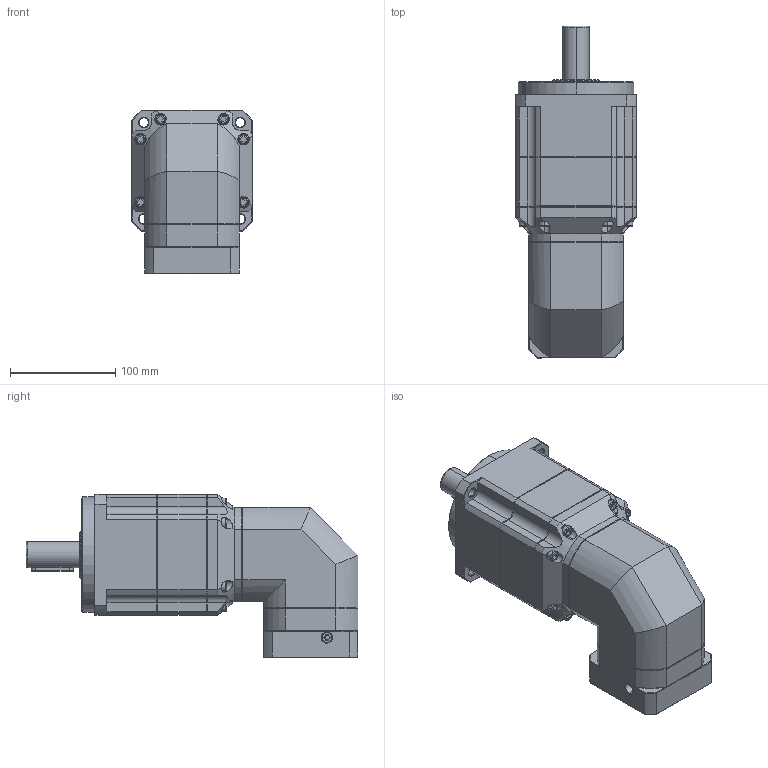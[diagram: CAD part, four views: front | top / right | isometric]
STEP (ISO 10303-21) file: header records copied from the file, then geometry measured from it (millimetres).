
FILE_DESCRIPTION (( 'STEP AP214' ), '1' );
FILE_NAME ('ZPBR115-D25-L3-P1-12.7-73-69.6X69.6-M6.step', '2024-06-29T08:02:01', ( 'Windows 蚚誧' ), ( 'Organization' ), 'SwSTEP 2.0', 'SolidWorks 2016', '' );
FILE_SCHEMA (( 'AUTOMOTIVE_DESIGN' ));
Length unit declared in the file: millimetre
Products named in the file (1): ZPBR115-D25-L3-P1-12.7-73-69.6X69.6-M6
Bounding box: 115 x 316 x 155.5 mm (x, y, z)
Surface area: 170457.1 mm2 (no closed solid volume)
Topology: 0 solids, 3 shells, 1855 faces, 4930 edges, 3176 vertices
Faces by surface type: plane 1075, bspline 397, cylinder 203, cone 180
Full cylindrical faces by diameter (mm): 10.2 x1
Entity records: 100650 total; most frequent: CARTESIAN_POINT 50255, ORIENTED_EDGE 9832, DIRECTION 7340, EDGE_CURVE 4928, LINE 3284, VECTOR 3284, VERTEX_POINT 3175, AXIS2_PLACEMENT_3D 2028
